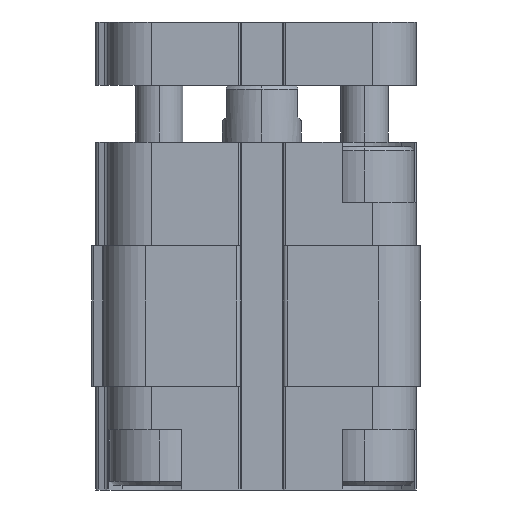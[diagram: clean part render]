
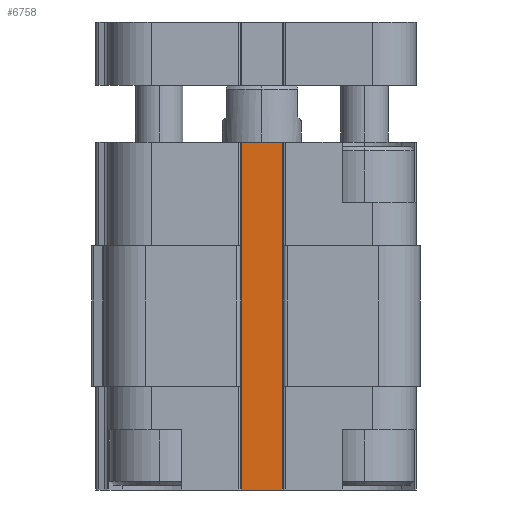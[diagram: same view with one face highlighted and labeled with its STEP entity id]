
A CAD part, left-side view. The second image highlights one B-rep face of the part: STEP entity #6758.
In plain terms, the highlighted planar face has unit normal (-1, 0, 0).
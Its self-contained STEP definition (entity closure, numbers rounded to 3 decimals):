
#760 = LINE ( 'NONE', #4812, #762 ) ;
#762 = VECTOR ( 'NONE', #4813, 1000. ) ;
#2398 = EDGE_LOOP ( 'NONE', ( #8104, #8105, #8106, #8107 ) ) ;
#2697 = EDGE_CURVE ( 'NONE', #3053, #2958, #8461, .T. ) ;
#2699 = EDGE_CURVE ( 'NONE', #3053, #3059, #8467, .T. ) ;
#2700 = EDGE_CURVE ( 'NONE', #2964, #3059, #8463, .T. ) ;
#2885 = EDGE_CURVE ( 'NONE', #2958, #2964, #760, .T. ) ;
#2958 = VERTEX_POINT ( 'NONE', #4952 ) ;
#2964 = VERTEX_POINT ( 'NONE', #4958 ) ;
#3053 = VERTEX_POINT ( 'NONE', #5047 ) ;
#3059 = VERTEX_POINT ( 'NONE', #5053 ) ;
#3518 = DIRECTION ( 'NONE',  ( 0., 0., -1. ) ) ;
#3523 = CARTESIAN_POINT ( 'NONE',  ( -15.7, -2.6, 8.9 ) ) ;
#3525 = DIRECTION ( 'NONE',  ( 0., 0., 1. ) ) ;
#3526 = CARTESIAN_POINT ( 'NONE',  ( -15.7, 0.75, -13.1 ) ) ;
#3528 = DIRECTION ( 'NONE',  ( 0., -1., 0. ) ) ;
#3533 = CARTESIAN_POINT ( 'NONE',  ( -15.7, 2.6, 8.9 ) ) ;
#4224 = AXIS2_PLACEMENT_3D ( 'NONE', #9896, #9904, #9905 ) ;
#4812 = CARTESIAN_POINT ( 'NONE',  ( -15.7, 0., 30.9 ) ) ;
#4813 = DIRECTION ( 'NONE',  ( 0., -1., 0. ) ) ;
#4952 = CARTESIAN_POINT ( 'NONE',  ( -15.7, 2.6, 30.9 ) ) ;
#4958 = CARTESIAN_POINT ( 'NONE',  ( -15.7, -2.6, 30.9 ) ) ;
#5047 = CARTESIAN_POINT ( 'NONE',  ( -15.7, 2.6, -13.1 ) ) ;
#5053 = CARTESIAN_POINT ( 'NONE',  ( -15.7, -2.6, -13.1 ) ) ;
#6758 = ADVANCED_FACE ( 'NONE', ( #7258 ), #9901, .F. ) ;
#7258 = FACE_OUTER_BOUND ( 'NONE', #2398, .T. ) ;
#8104 = ORIENTED_EDGE ( 'NONE', *, *, #2699, .T. ) ;
#8105 = ORIENTED_EDGE ( 'NONE', *, *, #2700, .F. ) ;
#8106 = ORIENTED_EDGE ( 'NONE', *, *, #2885, .F. ) ;
#8107 = ORIENTED_EDGE ( 'NONE', *, *, #2697, .F. ) ;
#8461 = LINE ( 'NONE', #3533, #8466 ) ;
#8463 = LINE ( 'NONE', #3523, #8471 ) ;
#8466 = VECTOR ( 'NONE', #3525, 1000. ) ;
#8467 = LINE ( 'NONE', #3526, #8469 ) ;
#8469 = VECTOR ( 'NONE', #3528, 1000. ) ;
#8471 = VECTOR ( 'NONE', #3518, 1000. ) ;
#9896 = CARTESIAN_POINT ( 'NONE',  ( -15.7, -2.6, 30.9 ) ) ;
#9901 = PLANE ( 'NONE',  #4224 ) ;
#9904 = DIRECTION ( 'NONE',  ( 1., 0., 0. ) ) ;
#9905 = DIRECTION ( 'NONE',  ( 0., 0., -1. ) ) ;
